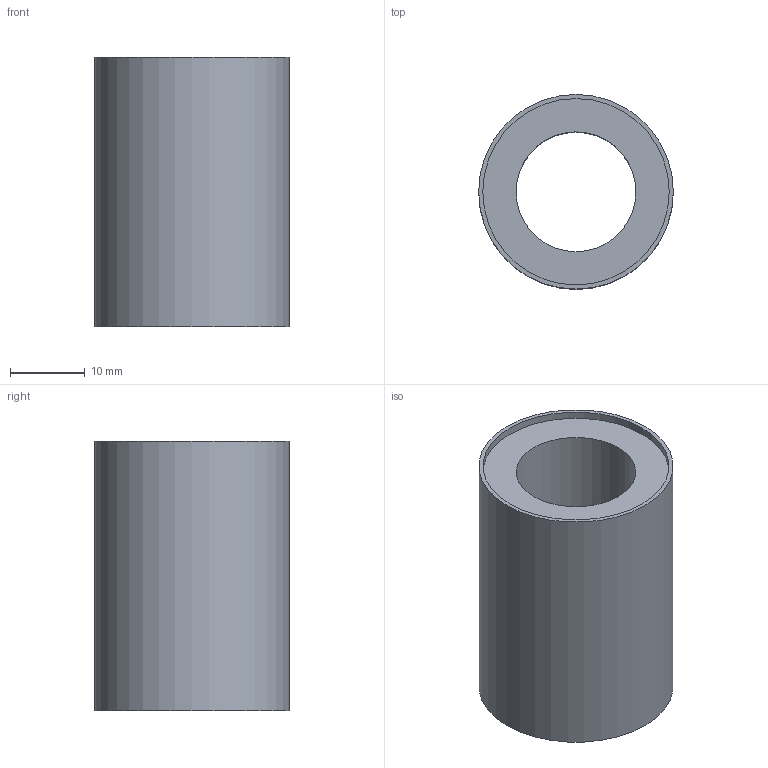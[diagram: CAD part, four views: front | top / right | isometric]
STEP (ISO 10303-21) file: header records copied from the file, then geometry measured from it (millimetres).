
FILE_DESCRIPTION(/* description */ (''),/* implementation_level */ '2;1');
FILE_NAME(/* name */ 'W:\WEBOVKY\Knecht\LME-UU\LME-16-UU\LME-16-UU.stp',/* time_stamp */ '2021-03-08T12:13:04+01:00',/* author */ ('mkorenek'),/* organization */ (''),/* preprocessor_version */ 'ST-DEVELOPER v18.1',/* originating_system */ 'Autodesk Inventor 2021',/* authorisation */ '');
FILE_SCHEMA (('AUTOMOTIVE_DESIGN { 1 0 10303 214 3 1 1 }'));
Length unit declared in the file: millimetre
Products named in the file (3): LME-16-UU; vnějšek pouzdra; vnitřek pouzdra
Assembly tree (2 placements, depth 2):
  LME-16-UU
    vnějšek pouzdra
    vnitřek pouzdra
Bounding box: 26 x 26 x 36 mm (x, y, z)
Volume: 11303.4 mm3; surface area: 10785.1 mm2
Topology: 2 solids, 2 shells, 8 faces, 16 edges, 12 vertices
Faces by surface type: plane 4, cylinder 4
Full cylindrical faces by diameter (mm): 16 x1, 24.9 x2, 26 x1
Entity records: 359 total; most frequent: DIRECTION 54, CARTESIAN_POINT 41, ORIENTED_EDGE 32, AXIS2_PLACEMENT_3D 25, EDGE_CURVE 16, EDGE_LOOP 12, CIRCLE 12, VERTEX_POINT 12
